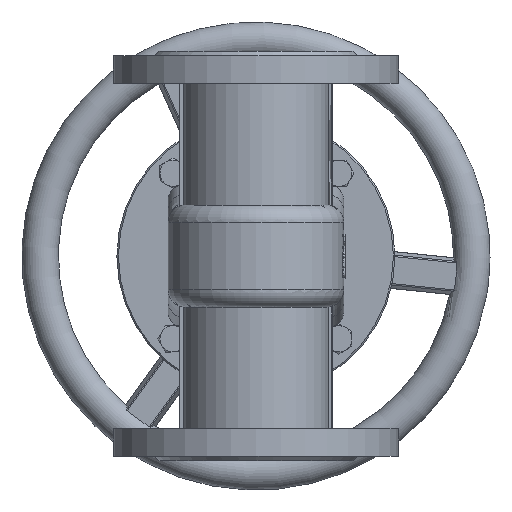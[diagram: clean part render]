
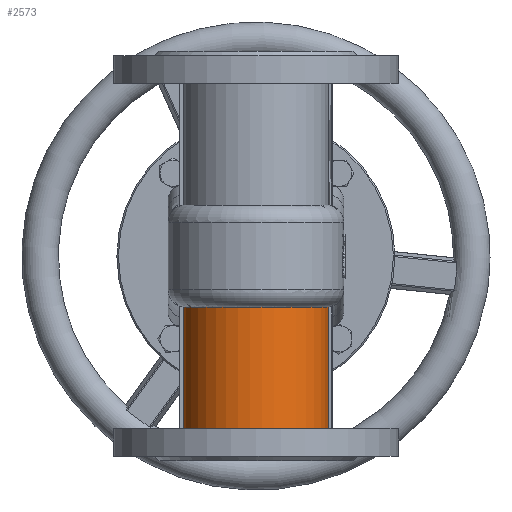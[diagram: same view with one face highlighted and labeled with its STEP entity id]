
A CAD part, front view. The second image highlights one B-rep face of the part: STEP entity #2573.
In plain terms, the highlighted cylindrical face has radius 50 mm (diameter 100 mm), a partial arc.
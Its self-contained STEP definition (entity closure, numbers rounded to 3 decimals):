
#2573=ADVANCED_FACE('',(#10603),#10605,.T.);
#10603=FACE_BOUND('',#10604,.T.);
#10604=EDGE_LOOP('',(#18154,#18155,#18156,#18157));
#10605=CYLINDRICAL_SURFACE('',#10606,50.);
#10606=AXIS2_PLACEMENT_3D('',#10607,#10608,#10609);
#10607=CARTESIAN_POINT('',(0.,0.,-85.));
#10608=DIRECTION('',(0.,0.,1.));
#10609=DIRECTION('',(1.,0.,0.));
#18154=ORIENTED_EDGE('',*,*,#21792,.F.);
#18155=ORIENTED_EDGE('',*,*,#21793,.T.);
#18156=ORIENTED_EDGE('',*,*,#21638,.T.);
#18157=ORIENTED_EDGE('',*,*,#21790,.F.);
#21638=EDGE_CURVE('',#24295,#24292,#24296,.T.);
#21790=EDGE_CURVE('',#24562,#24292,#24565,.T.);
#21792=EDGE_CURVE('',#24567,#24562,#24568,.F.);
#21793=EDGE_CURVE('',#24567,#24295,#24569,.T.);
#24292=VERTEX_POINT('',#32762);
#24295=VERTEX_POINT('',#32794);
#24296=CIRCLE('',#32795,50.);
#24562=VERTEX_POINT('',#34328);
#24565=LINE('',#34333,#34334);
#24567=VERTEX_POINT('',#34339);
#24568=CIRCLE('',#34340,50.);
#24569=LINE('',#34344,#34345);
#32762=CARTESIAN_POINT('',(-49.434,-7.5,-34.832));
#32794=CARTESIAN_POINT('',(49.434,-7.5,-34.832));
#32795=AXIS2_PLACEMENT_3D('',#32796,#32797,#32798);
#32796=CARTESIAN_POINT('',(0.,0.,-34.832));
#32797=DIRECTION('',(0.,0.,-1.));
#32798=DIRECTION('',(0.989,-0.15,0.));
#34328=CARTESIAN_POINT('',(-49.434,-7.5,-118.));
#34333=CARTESIAN_POINT('',(-49.434,-7.5,-118.));
#34334=VECTOR('',#34335,1.);
#34335=DIRECTION('',(0.,0.,1.));
#34339=CARTESIAN_POINT('',(49.434,-7.5,-118.));
#34340=AXIS2_PLACEMENT_3D('',#34341,#34342,#34343);
#34341=CARTESIAN_POINT('',(0.,0.,-118.));
#34342=DIRECTION('',(0.,0.,1.));
#34343=DIRECTION('',(-0.989,-0.15,0.));
#34344=CARTESIAN_POINT('',(49.434,-7.5,-118.));
#34345=VECTOR('',#34346,1.);
#34346=DIRECTION('',(0.,0.,1.));
